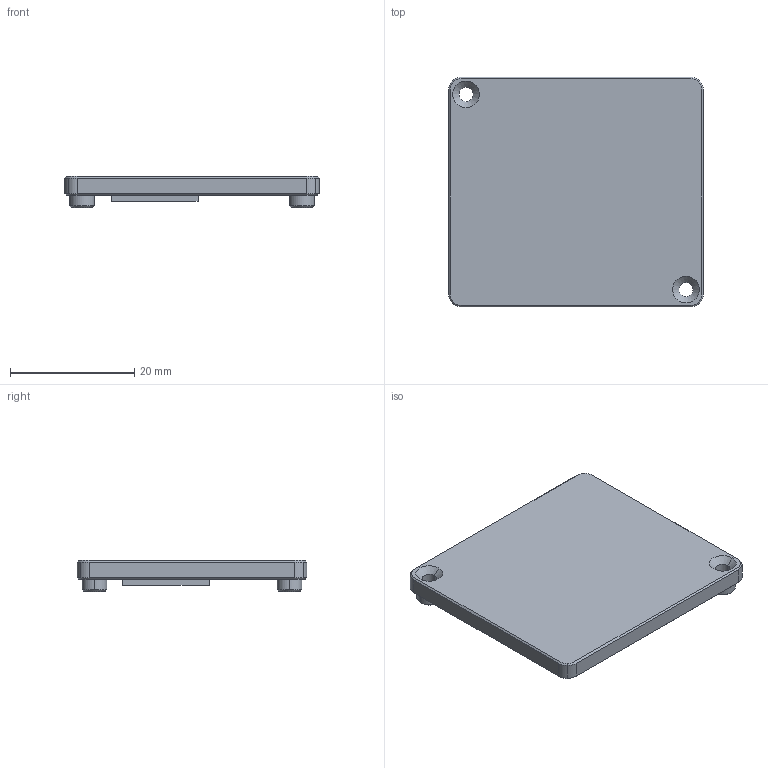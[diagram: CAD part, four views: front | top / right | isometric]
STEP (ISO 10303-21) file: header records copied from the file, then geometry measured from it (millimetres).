
FILE_DESCRIPTION(('STEP AP242'),'1');
FILE_NAME('MHS.PC100.1.stp','2021-11-23T09:28:38',(' '),(' '),'Spatial InterOp 3D',' ',' ');
FILE_SCHEMA(('AP242_MANAGED_MODEL_BASED_3D_ENGINEERING_MIM_LF {1 0 10303 442 1 1 4}'));
Length unit declared in the file: millimetre
Products named in the file (3): MHS.PC100.1; Headspreader; Thermal pad 14x14x1mm
Assembly tree (2 placements, depth 2):
  MHS.PC100.1
    Headspreader
    Thermal pad 14x14x1mm
Bounding box: 41 x 37 x 5 mm (x, y, z)
Volume: 4725.8 mm3; surface area: 3984.2 mm2
Topology: 2 solids, 2 shells, 62 faces, 136 edges, 80 vertices
Faces by surface type: cone 24, plane 22, cylinder 16
Entity records: 2265 total; most frequent: DIRECTION 322, CARTESIAN_POINT 281, ORIENTED_EDGE 272, EDGE_CURVE 136, AXIS2_PLACEMENT_3D 121, VERTEX_POINT 80, LINE 80, VECTOR 80
